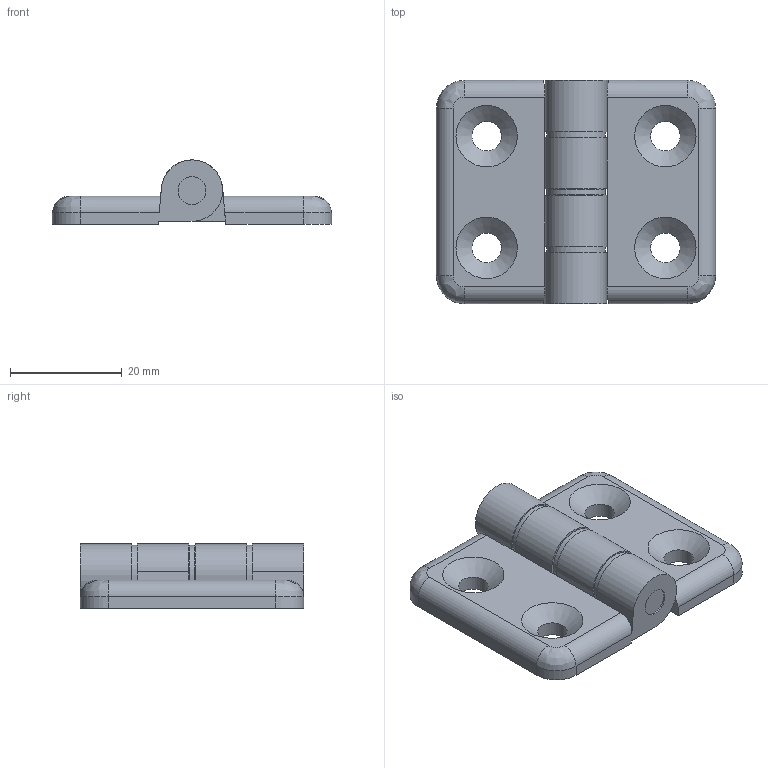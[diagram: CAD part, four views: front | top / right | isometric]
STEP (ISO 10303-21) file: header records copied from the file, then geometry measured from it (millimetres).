
FILE_DESCRIPTION(/* description */ (''),/* implementation_level */ '2;1');
FILE_NAME(/* name */ '\\NAS\db20\HC4050\DR_HC4050.stp',/* time_stamp */ '2018-08-10T18:44:10+09:00',/* author */ ('user'),/* organization */ (''),/* preprocessor_version */ 'ST-DEVELOPER v15.6',/* originating_system */ 'Autodesk Inventor 2015',/* authorisation */ '');
FILE_SCHEMA (('AUTOMOTIVE_DESIGN { 1 0 10303 214 3 1 1 }'));
Length unit declared in the file: millimetre
Products named in the file (4): DR_HC4050; DR_HC4050-PIN; DR_HC4050-WASHER
Bounding box: 50 x 40 x 11.49 mm (x, y, z)
Volume: 10889.9 mm3; surface area: 7645.6 mm2
Topology: 6 solids, 6 shells, 73 faces, 169 edges, 108 vertices
Faces by surface type: plane 34, cylinder 29, cone 4, bspline 4, torus 2
Full cylindrical faces by diameter (mm): 5 x4, 5.3 x4, 6 x4, 10.5 x3
Entity records: 1126 total; most frequent: DIRECTION 195, CARTESIAN_POINT 185, ORIENTED_EDGE 142, AXIS2_PLACEMENT_3D 79, EDGE_CURVE 71, EDGE_LOOP 58, VERTEX_POINT 51, LINE 37
